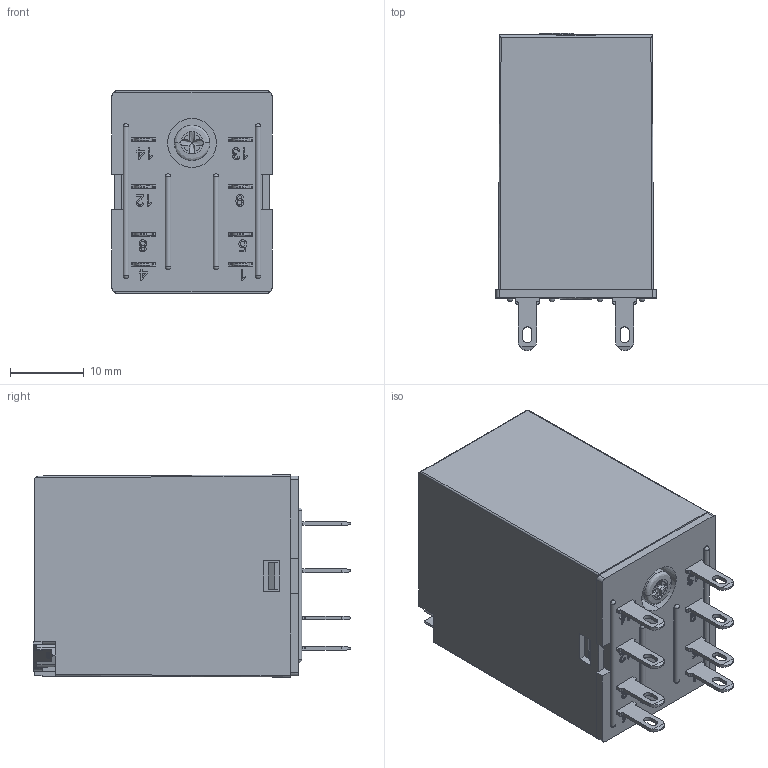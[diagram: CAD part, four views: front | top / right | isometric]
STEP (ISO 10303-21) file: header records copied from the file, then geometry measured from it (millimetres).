
FILE_DESCRIPTION (( 'STEP AP203' ), '1' );
FILE_NAME ('RKF2C 俋倛.STEP', '2023-01-14T06:56:00', ( '' ), ( '' ), 'SwSTEP 2.0', 'SolidWorks 2018', '' );
FILE_SCHEMA (( 'CONFIG_CONTROL_DESIGN' ));
Length unit declared in the file: millimetre
Products named in the file (1): RKF2C 俋倛
Bounding box: 21.7 x 42.99 x 27.4 mm (x, y, z)
Volume: 20100 mm3; surface area: 5504 mm2
Topology: 1 solids, 2 shells, 655 faces, 1774 edges, 1151 vertices
Faces by surface type: plane 408, cylinder 133, bspline 94, cone 10, sphere 10
Entity records: 25191 total; most frequent: CARTESIAN_POINT 9277, ORIENTED_EDGE 3516, DIRECTION 2901, EDGE_CURVE 1758, VECTOR 1197, LINE 1197, VERTEX_POINT 1145, AXIS2_PLACEMENT_3D 852
